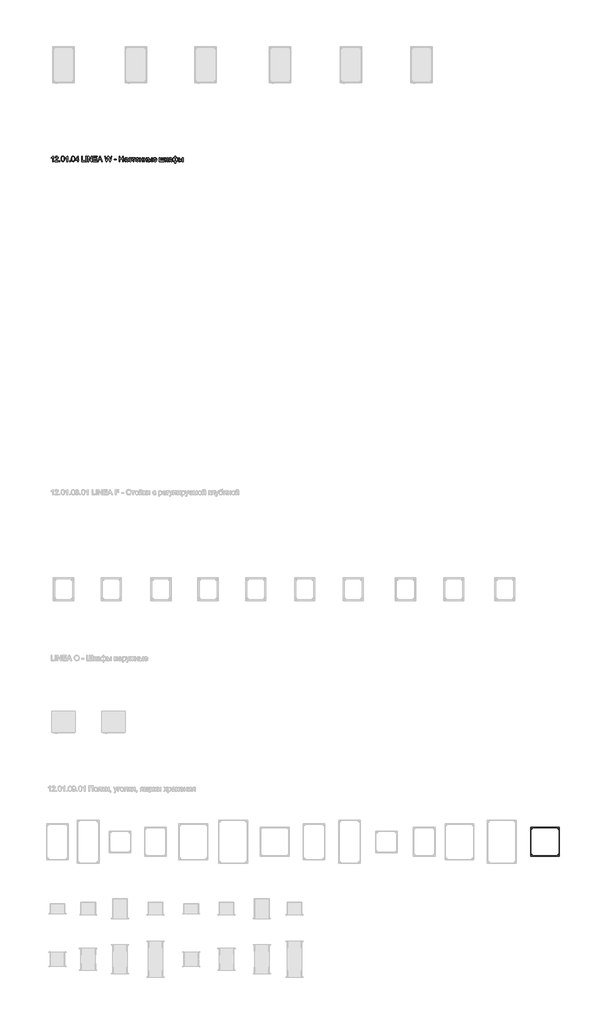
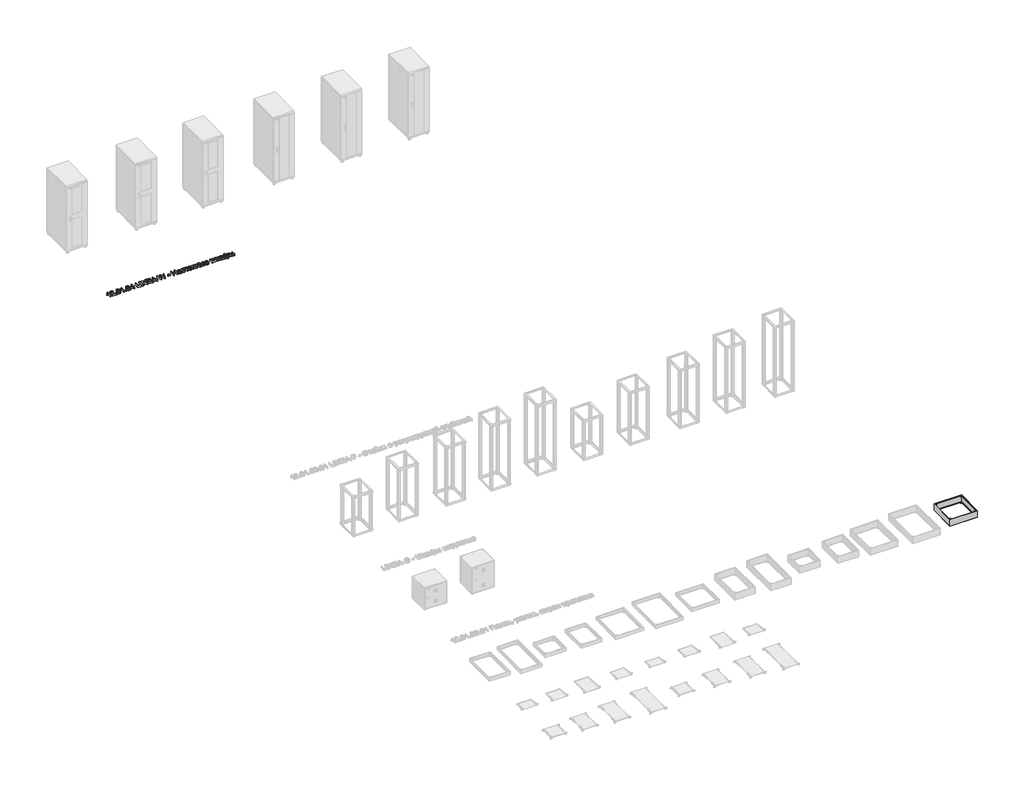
# One storey, part 7 of 9: 2 proxies.
"""IFC4 building model written with IfcOpenShell, lengths in millimetres."""

from ifc_helpers import new_model, si_unit, origin, origin_with_axes, place, context, project, spatial, polyline, outline, extrude, transform, mapped, element, save
from components import bs05_2h88_064c4a0a

model = new_model("IFC4")

# Units and contexts
model_context = context("Model", 3, world=origin())
ifc_project = project(units=[si_unit("LENGTHUNIT", "METRE", prefix="MILLI")], contexts=[model_context])

# Site, building, storey
site = spatial("IfcSite", under=ifc_project)
building = spatial("IfcBuilding", under=site)
storey = spatial("IfcBuildingStorey", under=building, Name="Уровень 1", Elevation=0.0)

# Proxies
placement = place(None, origin())
element("IfcBuildingElementProxy", 1, Name="Надпись на модели 1", ObjectType="Надпись на модели 1", at=placement, inside=storey, context=model_context, shape_type="SweptSolid", body=[
    extrude(outline(polyline([(-45259.6762415, -8097.5177415), (-45278.13778, -8097.5177415), (-45278.13778, -7982.4215877), (-45295.6257608, -7994.8795203), (-45315.0608569, -8004.2004338), (-45315.0608569, -7986.7485107), (-45287.9995588, -7969.4768761), (-45271.57528, -7949.8254338), (-45259.6762415, -7949.8254338), (-45259.6762415, -8097.5177415)])), origin_with_axes(), (0.0, 0.0, 1.0), 50.0),
    extrude(outline(polyline([(-45121.2147031, -8079.056203), (-45121.2147031, -8097.5177415), (-45218.13778, -8097.5177415), (-45216.1546069, -8084.7893761), (-45204.9406646, -8065.1920203), (-45181.8276838, -8043.79178), (-45149.9526838, -8013.0345684), (-45143.9761213, -8002.4336069), (-45141.9839338, -7992.1211069), (-45143.8634411, -7982.876816), (-45149.5019627, -7975.1920203), (-45158.1693305, -7970.0132343), (-45169.1353762, -7968.2869723), (-45180.6513016, -7969.9726694), (-45189.5981165, -7975.0297607), (-45195.3718545, -7983.0616117), (-45197.3685492, -7993.6715877), (-45215.8300877, -7991.3638953), (-45211.3544266, -7973.5063232), (-45201.6774435, -7960.462453), (-45187.3039459, -7952.4846886), (-45168.7387415, -7949.8254338), (-45150.0383209, -7952.7821646), (-45135.6918665, -7961.6523569), (-45126.5647632, -7974.9035588), (-45123.5223954, -7991.0033184), (-45126.8036454, -8008.509328), (-45137.7110973, -8026.6102896), (-45164.1594146, -8051.9047607), (-45185.3973954, -8069.6631742), (-45193.7267223, -8079.056203), (-45121.2147031, -8079.056203)])), origin_with_axes(), (0.0, 0.0, 1.0), 50.0),
    extrude(outline(polyline([(-45093.5223954, -8097.5177415), (-45093.5223954, -8079.056203), (-45075.0608569, -8079.056203), (-45075.0608569, -8097.5177415), (-45093.5223954, -8097.5177415)])), origin_with_axes(), (0.0, 0.0, 1.0), 50.0),
    extrude(outline(polyline([(-45045.0608569, -8024.8614915), (-45043.7041863, -8001.221167), (-45039.6341742, -7982.3675011), (-45032.8913858, -7968.0120324), (-45023.5163858, -7957.8662992), (-45011.4415661, -7951.8356502), (-44996.5993185, -7949.8254338), (-44975.0368185, -7954.5850492), (-44960.1449915, -7968.3050011), (-44951.4911454, -7990.1559627), (-44948.13778, -8024.8614915), (-44949.480929, -8048.3665997), (-44953.5103762, -8067.1751934), (-44960.2125997, -8081.5441838), (-44969.5740781, -8091.7304819), (-44981.6759411, -8097.8016958), (-44996.5993185, -8099.8254338), (-45015.7820108, -8096.3098088), (-45030.3493185, -8085.7629338), (-45041.3829723, -8060.7839675), (-45045.0608569, -8024.8614915)]), holes=[polyline([(-45026.5993185, -8024.8254338), (-45024.4358569, -8053.8653977), (-45017.9454723, -8070.6727896), (-45008.2820108, -8078.6911189), (-44996.5993185, -8081.3638953), (-44984.9166262, -8078.6821045), (-44975.2531646, -8070.6367319), (-44968.76278, -8053.8203256), (-44966.5993185, -8024.8254338), (-44968.6906646, -7996.4390155), (-44974.9647031, -7979.5009146), (-44984.6101358, -7971.0904578), (-44996.8156646, -7968.2869723), (-45008.372155, -7970.7569242), (-45017.6570108, -7978.16678), (-45024.3637415, -7996.1595684), (-45026.5993185, -8024.8254338)])]), origin_with_axes(), (0.0, 0.0, 1.0), 50.0),
    extrude(outline(polyline([(-44862.7531646, -8097.5177415), (-44881.2147031, -8097.5177415), (-44881.2147031, -7982.4215877), (-44898.7026838, -7994.8795203), (-44918.13778, -8004.2004338), (-44918.13778, -7986.7485107), (-44891.0764819, -7969.4768761), (-44874.6522031, -7949.8254338), (-44862.7531646, -7949.8254338), (-44862.7531646, -8097.5177415)])), origin_with_axes(), (0.0, 0.0, 1.0), 50.0),
    extrude(outline(polyline([(-44809.6762415, -8097.5177415), (-44809.6762415, -8079.056203), (-44791.2147031, -8079.056203), (-44791.2147031, -8097.5177415), (-44809.6762415, -8097.5177415)])), origin_with_axes(), (0.0, 0.0, 1.0), 50.0),
    extrude(outline(polyline([(-44761.2147031, -8024.8614915), (-44759.8580324, -8001.221167), (-44755.7880204, -7982.3675011), (-44749.0452319, -7968.0120324), (-44739.6702319, -7957.8662992), (-44727.5954122, -7951.8356502), (-44712.7531646, -7949.8254338), (-44691.1906646, -7954.5850492), (-44676.2988377, -7968.3050011), (-44667.6449915, -7990.1559627), (-44664.2916262, -8024.8614915), (-44665.6347752, -8048.3665997), (-44669.6642223, -8067.1751934), (-44676.3664459, -8081.5441838), (-44685.7279242, -8091.7304819), (-44697.8297872, -8097.8016958), (-44712.7531646, -8099.8254338), (-44731.9358569, -8096.3098088), (-44746.5031646, -8085.7629338), (-44757.5368185, -8060.7839675), (-44761.2147031, -8024.8614915)]), holes=[polyline([(-44742.7531646, -8024.8254338), (-44740.5897031, -8053.8653977), (-44734.0993185, -8070.6727896), (-44724.4358569, -8078.6911189), (-44712.7531646, -8081.3638953), (-44701.0704723, -8078.6821045), (-44691.4070108, -8070.6367319), (-44684.9166262, -8053.8203256), (-44682.7531646, -8024.8254338), (-44684.8445108, -7996.4390155), (-44691.1185492, -7979.5009146), (-44700.7639819, -7971.0904578), (-44712.9695108, -7968.2869723), (-44724.5260012, -7970.7569242), (-44733.8108569, -7978.16678), (-44740.5175877, -7996.1595684), (-44742.7531646, -8024.8254338)])]), origin_with_axes(), (0.0, 0.0, 1.0), 50.0),
    extrude(outline(polyline([(-44588.13778, -8097.5177415), (-44588.13778, -8062.9023569), (-44655.0608569, -8062.9023569), (-44655.0608569, -8044.4408184), (-44583.5223954, -7952.1331261), (-44569.6762415, -7952.1331261), (-44569.6762415, -8044.4408184), (-44551.2147031, -8044.4408184), (-44551.2147031, -8062.9023569), (-44569.6762415, -8062.9023569), (-44569.6762415, -8097.5177415), (-44588.13778, -8097.5177415)]), holes=[polyline([(-44588.13778, -8044.4408184), (-44588.13778, -7987.3975492), (-44632.3445108, -8044.4408184), (-44588.13778, -8044.4408184)])]), origin_with_axes(), (0.0, 0.0, 1.0), 50.0),
    extrude(outline(polyline([(-44470.4454723, -8097.5177415), (-44470.4454723, -7949.8254338), (-44451.9839338, -7949.8254338), (-44451.9839338, -8079.056203), (-44378.13778, -8079.056203), (-44378.13778, -8097.5177415), (-44470.4454723, -8097.5177415)])), origin_with_axes(), (0.0, 0.0, 1.0), 50.0),
    extrude(outline(polyline([(-44355.0608569, -8097.5177415), (-44355.0608569, -7949.8254338), (-44336.5993185, -7949.8254338), (-44336.5993185, -8097.5177415), (-44355.0608569, -8097.5177415)])), origin_with_axes(), (0.0, 0.0, 1.0), 50.0),
    extrude(outline(polyline([(-44299.6762415, -8097.5177415), (-44299.6762415, -7949.8254338), (-44279.9166262, -7949.8254338), (-44202.7531646, -8066.8326453), (-44202.7531646, -7949.8254338), (-44184.2916262, -7949.8254338), (-44184.2916262, -8097.5177415), (-44204.0512415, -8097.5177415), (-44281.2147031, -7980.4744723), (-44281.2147031, -8097.5177415), (-44299.6762415, -8097.5177415)])), origin_with_axes(), (0.0, 0.0, 1.0), 50.0),
    extrude(outline(polyline([(-44151.9839338, -8097.5177415), (-44151.9839338, -7949.8254338), (-44045.8300877, -7949.8254338), (-44045.8300877, -7968.2869723), (-44133.5223954, -7968.2869723), (-44133.5223954, -8012.1331261), (-44050.4454723, -8012.1331261), (-44050.4454723, -8030.5946646), (-44133.5223954, -8030.5946646), (-44133.5223954, -8079.056203), (-44043.5223954, -8079.056203), (-44043.5223954, -8097.5177415), (-44151.9839338, -8097.5177415)])), origin_with_axes(), (0.0, 0.0, 1.0), 50.0),
    extrude(outline(polyline([(-44033.0296069, -8097.5177415), (-43974.07528, -7949.8254338), (-43958.3541262, -7949.8254338), (-43899.3997992, -8097.5177415), (-43918.9070108, -8097.5177415), (-43935.8180685, -8051.3638953), (-43996.6473954, -8051.3638953), (-44013.5223954, -8097.5177415), (-44033.0296069, -8097.5177415)]), holes=[polyline([(-43989.8685492, -8032.9023569), (-43942.5608569, -8032.9023569), (-43955.8661454, -7996.5922607), (-43966.2147031, -7968.2869723), (-43975.4094146, -7993.4191838), (-43989.8685492, -8032.9023569)])]), origin_with_axes(), (0.0, 0.0, 1.0), 50.0),
    extrude(outline(polyline([(-43795.5536454, -8097.5177415), (-43835.8300877, -7949.8254338), (-43816.7916262, -7949.8254338), (-43793.4262415, -8046.8927415), (-43786.2147031, -8076.8566838), (-43778.4983569, -8050.35428), (-43749.2195108, -7949.8254338), (-43721.7796069, -7949.8254338), (-43700.5055685, -8022.69803), (-43684.6762415, -8076.8566838), (-43677.6810492, -8047.7581261), (-43654.0993185, -7949.8254338), (-43635.0608569, -7949.8254338), (-43675.3733569, -8097.5177415), (-43695.0969146, -8097.5177415), (-43730.5055685, -7983.5754338), (-43735.4454723, -7967.6739915), (-43740.9983569, -7986.8206261), (-43773.2699915, -8097.5177415), (-43795.5536454, -8097.5177415)])), origin_with_axes(), (0.0, 0.0, 1.0), 50.0),
    extrude(outline(polyline([(-43570.4454723, -8053.6715877), (-43570.4454723, -8035.2100492), (-43512.7531646, -8035.2100492), (-43512.7531646, -8053.6715877), (-43570.4454723, -8053.6715877)])), origin_with_axes(), (0.0, 0.0, 1.0), 50.0),
    extrude(outline(polyline([(-43431.9839338, -8097.5177415), (-43431.9839338, -7949.8254338), (-43413.5223954, -7949.8254338), (-43413.5223954, -8009.8254338), (-43335.0608569, -8009.8254338), (-43335.0608569, -7949.8254338), (-43316.5993185, -7949.8254338), (-43316.5993185, -8097.5177415), (-43335.0608569, -8097.5177415), (-43335.0608569, -8028.2869723), (-43413.5223954, -8028.2869723), (-43413.5223954, -8097.5177415), (-43431.9839338, -8097.5177415)])), origin_with_axes(), (0.0, 0.0, 1.0), 50.0),
    extrude(outline(polyline([(-43217.3685492, -8083.6715877), (-43235.2711935, -8096.1836069), (-43255.0488377, -8099.8254338), (-43270.4770228, -8097.634929), (-43281.8577319, -8091.0634146), (-43288.8754603, -8081.0844482), (-43291.2147031, -8068.6715877), (-43287.6810492, -8054.0682223), (-43278.3961935, -8043.4672607), (-43265.4695108, -8037.4095684), (-43249.4959531, -8034.6331261), (-43217.4767223, -8028.2869723), (-43217.3685492, -8024.1763953), (-43218.6395829, -8015.9372127), (-43222.4526838, -8010.5465877), (-43230.9803281, -8006.5441838), (-43242.8613377, -8005.2100492), (-43261.5392223, -8008.7617319), (-43270.4454723, -8021.3638953), (-43288.9070108, -8019.056203), (-43280.9202319, -8001.0273569), (-43264.8385012, -7990.462453), (-43240.48153, -7986.7485107), (-43218.1077319, -7990.0297607), (-43205.4695108, -7998.2689434), (-43199.8084531, -8010.7989915), (-43198.9070108, -8026.9528377), (-43198.9070108, -8049.9215877), (-43197.9695108, -8081.994905), (-43194.2916262, -8097.5177415), (-43212.7531646, -8097.5177415), (-43217.3685492, -8083.6715877)]), holes=[polyline([(-43217.3685492, -8046.7485107), (-43247.1522031, -8052.4095684), (-43263.0356165, -8055.4023569), (-43270.2291262, -8060.2701453), (-43272.7531646, -8067.3735107), (-43267.2543665, -8077.3614915), (-43251.1185492, -8081.3638953), (-43232.4406646, -8076.946828), (-43220.3973954, -8066.2557223), (-43217.4767223, -8051.9768761), (-43217.3685492, -8046.7485107)])]), origin_with_axes(), (0.0, 0.0, 1.0), 50.0),
    extrude(outline(polyline([(-43104.2916262, -8058.2869723), (-43085.8300877, -8060.5946646), (-43090.9773233, -8077.0144362), (-43100.6497992, -8089.4227896), (-43113.9370588, -8097.2247727), (-43129.9286454, -8099.8254338), (-43149.5665661, -8096.1971285), (-43164.9226358, -8085.3122127), (-43174.8339939, -8067.6484506), (-43178.13778, -8043.6836069), (-43172.4947512, -8013.0165396), (-43165.3733569, -8001.5186429), (-43155.2952319, -7993.3110107), (-43143.2384411, -7988.3891357), (-43130.1810492, -7986.7485107), (-43114.5815901, -7989.0021165), (-43102.1101358, -7995.7629338), (-43093.1633209, -8006.6703857), (-43088.13778, -8021.3638953), (-43106.5993185, -8023.6715877), (-43115.1630204, -8009.8434627), (-43130.0368185, -8005.2100492), (-43141.9674074, -8007.4906982), (-43151.4370588, -8014.3326453), (-43157.6164459, -8026.1054819), (-43159.6762415, -8043.1787992), (-43157.661518, -8060.4819843), (-43151.6173473, -8072.2953857), (-43142.3189699, -8079.0967679), (-43130.5416262, -8081.3638953), (-43120.9818305, -8079.9486309), (-43113.1437896, -8075.7028377), (-43107.442167, -8068.5183425), (-43104.2916262, -8058.2869723)])), origin_with_axes(), (0.0, 0.0, 1.0), 50.0),
    extrude(outline(polyline([(-43078.9070108, -7989.056203), (-42991.2147031, -7989.056203), (-42991.2147031, -8007.5177415), (-43025.8300877, -8007.5177415), (-43025.8300877, -8097.5177415), (-43044.2916262, -8097.5177415), (-43044.2916262, -8007.5177415), (-43078.9070108, -8007.5177415), (-43078.9070108, -7989.056203)])), origin_with_axes(), (0.0, 0.0, 1.0), 50.0),
    extrude(outline(polyline([(-42899.1233569, -8065.2100492), (-42881.0223954, -8067.5177415), (-42887.5443305, -8081.1565636), (-42897.9514819, -8091.3518761), (-42912.0094747, -8097.7070444), (-42929.4839338, -8099.8254338), (-42951.1455925, -8096.1700852), (-42967.8132608, -8085.2040396), (-42978.4412656, -8067.6394362), (-42981.9839338, -8044.1884146), (-42978.4052079, -8019.9486309), (-42967.66903, -8001.8206261), (-42951.2267223, -7990.5165396), (-42930.5296069, -7986.7485107), (-42910.4770228, -7990.5075252), (-42894.4538858, -8001.7845684), (-42883.9475757, -8019.8765155), (-42880.4454723, -8044.0802415), (-42880.5536454, -8049.056203), (-42963.5223954, -8049.056203), (-42960.3267824, -8062.8753136), (-42952.903405, -8073.0345684), (-42942.1897632, -8079.2815636), (-42929.1233569, -8081.3638953), (-42911.0223954, -8077.5057223), (-42899.1233569, -8065.2100492)]), holes=[polyline([(-42963.5223954, -8030.5946646), (-42898.9070108, -8030.5946646), (-42901.404006, -8020.8410588), (-42906.2988377, -8013.8638953), (-42917.0620588, -8007.3735107), (-42930.6017223, -8005.2100492), (-42943.0461334, -8006.9363112), (-42953.3360973, -8012.1150973), (-42960.489042, -8020.1875131), (-42963.5223954, -8030.5946646)])]), origin_with_axes(), (0.0, 0.0, 1.0), 50.0),
    extrude(outline(polyline([(-42861.9839338, -7989.056203), (-42843.5223954, -7989.056203), (-42843.5223954, -8030.5946646), (-42795.0608569, -8030.5946646), (-42795.0608569, -7989.056203), (-42776.5993185, -7989.056203), (-42776.5993185, -8097.5177415), (-42795.0608569, -8097.5177415), (-42795.0608569, -8049.056203), (-42843.5223954, -8049.056203), (-42843.5223954, -8097.5177415), (-42861.9839338, -8097.5177415), (-42861.9839338, -7989.056203)])), origin_with_axes(), (0.0, 0.0, 1.0), 50.0),
    extrude(outline(polyline([(-42748.9070108, -7989.056203), (-42730.4454723, -7989.056203), (-42730.4454723, -8030.5946646), (-42681.9839338, -8030.5946646), (-42681.9839338, -7989.056203), (-42663.5223954, -7989.056203), (-42663.5223954, -8097.5177415), (-42681.9839338, -8097.5177415), (-42681.9839338, -8049.056203), (-42730.4454723, -8049.056203), (-42730.4454723, -8097.5177415), (-42748.9070108, -8097.5177415), (-42748.9070108, -7989.056203)])), origin_with_axes(), (0.0, 0.0, 1.0), 50.0),
    extrude(outline(polyline([(-42635.8300877, -7989.056203), (-42617.3685492, -7989.056203), (-42617.3685492, -8028.2869723), (-42594.54403, -8028.2869723), (-42574.8159651, -8030.5991718), (-42560.1990781, -8037.5357703), (-42551.1531045, -8048.5378737), (-42548.13778, -8063.0465877), (-42550.6663257, -8076.2572247), (-42558.2519627, -8087.4035588), (-42571.3904843, -8094.9891958), (-42590.5776838, -8097.5177415), (-42635.8300877, -8097.5177415), (-42635.8300877, -7989.056203)]), holes=[polyline([(-42617.3685492, -8079.056203), (-42598.4022031, -8079.056203), (-42573.91903, -8075.1800011), (-42568.4292463, -8070.2175612), (-42566.5993185, -8063.0826453), (-42572.0260012, -8051.7244723), (-42580.7294266, -8047.9925011), (-42595.9863377, -8046.7485107), (-42617.3685492, -8046.7485107), (-42617.3685492, -8079.056203)])]), origin_with_axes(), (0.0, 0.0, 1.0), 50.0),
    extrude(outline(polyline([(-42534.2916262, -7989.056203), (-42515.8300877, -7989.056203), (-42515.8300877, -8097.5177415), (-42534.2916262, -8097.5177415), (-42534.2916262, -7989.056203)])), origin_with_axes(), (0.0, 0.0, 1.0), 50.0),
    extrude(outline(polyline([(-42412.20028, -8065.2100492), (-42394.0993185, -8067.5177415), (-42400.6212536, -8081.1565636), (-42411.028405, -8091.3518761), (-42425.0863978, -8097.7070444), (-42442.5608569, -8099.8254338), (-42464.2225156, -8096.1700852), (-42480.8901838, -8085.2040396), (-42491.5181887, -8067.6394362), (-42495.0608569, -8044.1884146), (-42491.482131, -8019.9486309), (-42480.7459531, -8001.8206261), (-42464.3036454, -7990.5165396), (-42443.60653, -7986.7485107), (-42423.5539459, -7990.5075252), (-42407.5308088, -8001.7845684), (-42397.0244988, -8019.8765155), (-42393.5223954, -8044.0802415), (-42393.6305685, -8049.056203), (-42476.5993185, -8049.056203), (-42473.4037055, -8062.8753136), (-42465.9803281, -8073.0345684), (-42455.2666863, -8079.2815636), (-42442.20028, -8081.3638953), (-42424.0993185, -8077.5057223), (-42412.20028, -8065.2100492)]), holes=[polyline([(-42476.5993185, -8030.5946646), (-42411.9839338, -8030.5946646), (-42414.480929, -8020.8410588), (-42419.3757608, -8013.8638953), (-42430.1389819, -8007.3735107), (-42443.6786454, -8005.2100492), (-42456.1230564, -8006.9363112), (-42466.4130204, -8012.1150973), (-42473.5659651, -8020.1875131), (-42476.5993185, -8030.5946646)])]), origin_with_axes(), (0.0, 0.0, 1.0), 50.0),
    extrude(outline(polyline([(-42317.3685492, -7989.056203), (-42298.9070108, -7989.056203), (-42298.9070108, -8079.056203), (-42257.3685492, -8079.056203), (-42257.3685492, -7989.056203), (-42238.9070108, -7989.056203), (-42238.9070108, -8079.056203), (-42197.3685492, -8079.056203), (-42197.3685492, -7989.056203), (-42178.9070108, -7989.056203), (-42178.9070108, -8097.5177415), (-42317.3685492, -8097.5177415), (-42317.3685492, -7989.056203)])), origin_with_axes(), (0.0, 0.0, 1.0), 50.0),
    extrude(outline(polyline([(-42153.5223954, -7989.056203), (-42135.0608569, -7989.056203), (-42135.0608569, -8035.2100492), (-42122.6930685, -8031.8927415), (-42112.5608569, -8012.5658184), (-42104.1413858, -7995.8891357), (-42096.7135012, -7990.462453), (-42083.2098954, -7989.056203), (-42079.6762415, -7989.056203), (-42079.6762415, -8007.6259146), (-42084.6522031, -8007.5177415), (-42093.6666262, -8009.4648569), (-42100.01278, -8021.6162992), (-42107.4586935, -8034.759328), (-42117.8973954, -8041.1956261), (-42106.2507608, -8048.3801213), (-42094.8204723, -8063.5153377), (-42075.0608569, -8097.5177415), (-42096.0464338, -8097.5177415), (-42115.4094146, -8064.2364915), (-42125.1449915, -8050.1559627), (-42135.0608569, -8046.7485107), (-42135.0608569, -8097.5177415), (-42153.5223954, -8097.5177415), (-42153.5223954, -7989.056203)])), origin_with_axes(), (0.0, 0.0, 1.0), 50.0),
    extrude(outline(polyline([(-41994.2916262, -8083.6715877), (-42012.1942704, -8096.1836069), (-42031.9719146, -8099.8254338), (-42047.4000997, -8097.634929), (-42058.7808088, -8091.0634146), (-42065.7985372, -8081.0844482), (-42068.13778, -8068.6715877), (-42064.6041262, -8054.0682223), (-42055.3192704, -8043.4672607), (-42042.3925877, -8037.4095684), (-42026.41903, -8034.6331261), (-41994.3997992, -8028.2869723), (-41994.2916262, -8024.1763953), (-41995.5626598, -8015.9372127), (-41999.3757608, -8010.5465877), (-42007.903405, -8006.5441838), (-42019.7844146, -8005.2100492), (-42038.4622992, -8008.7617319), (-42047.3685492, -8021.3638953), (-42065.8300877, -8019.056203), (-42057.8433088, -8001.0273569), (-42041.7615781, -7990.462453), (-42017.4046069, -7986.7485107), (-41995.0308088, -7990.0297607), (-41982.3925877, -7998.2689434), (-41976.73153, -8010.7989915), (-41975.8300877, -8026.9528377), (-41975.8300877, -8049.9215877), (-41974.8925877, -8081.994905), (-41971.2147031, -8097.5177415), (-41989.6762415, -8097.5177415), (-41994.2916262, -8083.6715877)]), holes=[polyline([(-41994.2916262, -8046.7485107), (-42024.07528, -8052.4095684), (-42039.9586935, -8055.4023569), (-42047.1522031, -8060.2701453), (-42049.6762415, -8067.3735107), (-42044.1774435, -8077.3614915), (-42028.0416262, -8081.3638953), (-42009.3637415, -8076.946828), (-41997.3204723, -8066.2557223), (-41994.3997992, -8051.9768761), (-41994.2916262, -8046.7485107)])]), origin_with_axes(), (0.0, 0.0, 1.0), 50.0),
    extrude(outline(polyline([(-41888.13778, -7949.8254338), (-41869.6762415, -7949.8254338), (-41869.6762415, -7999.4768761), (-41857.9394627, -7989.9035588), (-41844.1834531, -7986.7485107), (-41828.0250997, -7990.759929), (-41815.6077319, -8002.7941838), (-41807.6975757, -8020.9131742), (-41805.0608569, -8043.1787992), (-41807.9004002, -8066.1250131), (-41816.41903, -8084.1944242), (-41829.1564098, -8095.9176814), (-41844.6522031, -8099.8254338), (-41855.9382608, -8098.0225492), (-41869.6762415, -8088.1787992), (-41869.6762415, -8139.056203), (-41888.13778, -8139.056203), (-41888.13778, -8088.1787992), (-41899.9286454, -8096.9047607), (-41913.8829723, -8099.8254338), (-41929.3517223, -8096.0934627), (-41942.7291262, -8084.8975492), (-41951.9779242, -8066.7515155), (-41955.0608569, -8042.1691838), (-41952.270893, -8020.525554), (-41943.9010012, -8002.6860107), (-41930.8165661, -7990.7328857), (-41913.8829723, -7986.7485107), (-41899.5860973, -7989.9035588), (-41888.13778, -7999.4768761), (-41888.13778, -7949.8254338)]), holes=[polyline([(-41869.7844146, -8043.6114915), (-41868.2474555, -8062.3028977), (-41863.6365781, -8073.665578), (-41856.7089939, -8079.439316), (-41848.2219146, -8081.3638953), (-41838.7342343, -8078.9976093), (-41830.7519627, -8071.8987511), (-41825.3297872, -8059.814917), (-41823.5223954, -8042.493703), (-41825.1900637, -8026.0694242), (-41830.1930685, -8014.4408184), (-41837.810256, -8007.5177415), (-41847.3204723, -8005.2100492), (-41857.114643, -8007.6123929), (-41864.1413858, -8014.8194242), (-41868.3736574, -8026.8221285), (-41869.7844146, -8043.6114915)]), polyline([(-41936.5993185, -8041.7725492), (-41934.7513617, -8059.8825252), (-41929.2074915, -8072.0970684), (-41920.9232367, -8079.0471886), (-41910.8541262, -8081.3638953), (-41900.8345949, -8079.0607102), (-41893.7086935, -8072.151155), (-41889.4493786, -8060.6352295), (-41888.0296069, -8044.5129338), (-41889.5214939, -8027.3179218), (-41893.997155, -8015.0357703), (-41901.4836334, -8007.6664795), (-41912.0079723, -8005.2100492), (-41921.88778, -8007.6078857), (-41929.7483569, -8014.8013953), (-41934.8865781, -8026.3398569), (-41936.5993185, -8041.7725492)])]), origin_with_axes(), (0.0, 0.0, 1.0), 50.0),
    extrude(outline(polyline([(-41680.4454723, -7989.056203), (-41661.9839338, -7989.056203), (-41661.9839338, -8097.5177415), (-41680.4454723, -8097.5177415), (-41680.4454723, -7989.056203)])), origin_with_axes(), (0.0, 0.0, 1.0), 50.0),
    extrude(outline(polyline([(-41781.9839338, -7989.056203), (-41763.5223954, -7989.056203), (-41763.5223954, -8028.2869723), (-41740.6978762, -8028.2869723), (-41720.9698113, -8030.5991718), (-41706.3529242, -8037.5357703), (-41697.3069507, -8048.5378737), (-41694.2916262, -8063.0465877), (-41696.8201718, -8076.2572247), (-41704.4058088, -8087.4035588), (-41717.5443305, -8094.9891958), (-41736.73153, -8097.5177415), (-41781.9839338, -8097.5177415), (-41781.9839338, -7989.056203)]), holes=[polyline([(-41763.5223954, -8079.056203), (-41744.5560492, -8079.056203), (-41720.0728762, -8075.1800011), (-41714.5830925, -8070.2175612), (-41712.7531646, -8063.0826453), (-41718.1798473, -8051.7244723), (-41726.8832728, -8047.9925011), (-41742.1401838, -8046.7485107), (-41763.5223954, -8046.7485107), (-41763.5223954, -8079.056203)])]), origin_with_axes(), (0.0, 0.0, 1.0), 50.0),
])
bs05_2h88_shape = bs05_2h88_064c4a0a(model_context)
element("IfcBuildingElementProxy", 2, Name="Цоколь для напольных шкафов : BS05-2H88", ObjectType="Цоколь для напольных шкафов : BS05-2H88", at=placement, inside=storey, context=model_context, shape_type="MappedRepresentation", body=[
    mapped(bs05_2h88_shape, transform((-31617.1394624, -26973.2338066, 0.0), x_axis=(1.0, 0.0, 0.0), y_axis=(0.0, 1.0, 0.0), z_axis=(0.0, 0.0, 1.0))),
])

save(model, "model.ifc")
